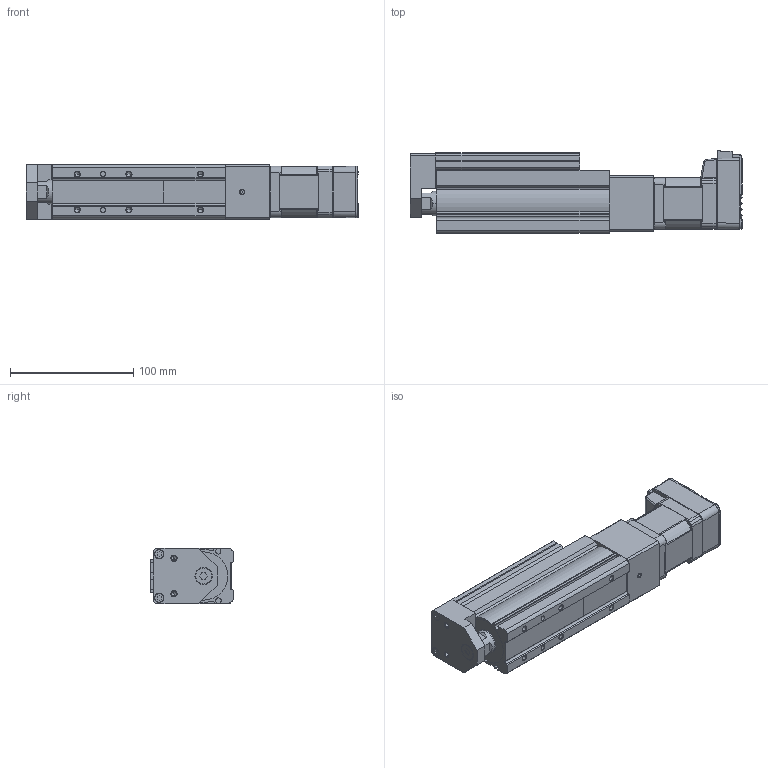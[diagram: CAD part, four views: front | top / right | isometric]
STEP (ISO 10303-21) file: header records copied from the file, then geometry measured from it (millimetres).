
FILE_DESCRIPTION (( 'STEP AP214' ), '1' );
FILE_NAME ('LESYH3(+)-16DNM1□-50-17L.STEP', '2025-05-30T01:49:04', ( '' ), ( '' ), 'SwSTEP 2.0', 'SolidWorks 2019', '' );
FILE_SCHEMA (( 'AUTOMOTIVE_DESIGN' ));
Length unit declared in the file: millimetre
Products named in the file (9): LESYH3(+)-16仏NM1仩-50_TABLE; CM3(+)-17L50A; LESYH3(+)-16仏NM1仩-50_BODY; LESYH3(+)-16DNM1□-50-17L; LESYH3(+)-16DNM1□_MOTOR Flange
Assembly tree (4 placements, depth 2):
  LESYH3(+)-16仏NM1仩-50_TABLE
  CM3(+)-17L50A
  LESYH3(+)-16仏NM1仩-50_BODY
  LESYH3(+)-16DNM1□-50-17L
    LESYH3(+)-16仏NM1仩-50_BODY
    LESYH3(+)-16仏NM1仩-50_TABLE
    LESYH3(+)-16DNM1□_MOTOR Flange
    CM3(+)-17L50A
  LESYH3(+)-16DNM1□_MOTOR Flange
Bounding box: 269.3 x 66.75 x 45 mm (x, y, z)
Volume: 568137.7 mm3; surface area: 106482.1 mm2
Topology: 4 solids, 4 shells, 1027 faces, 2593 edges, 1622 vertices
Faces by surface type: plane 532, cylinder 298, cone 118, bspline 29, torus 29, sphere 21
Full cylindrical faces by diameter (mm): 2.5 x4, 3.5 x4, 5 x1, 8 x1, 11 x1, 22 x1, 33 x1
Entity records: 39601 total; most frequent: CARTESIAN_POINT 7301, ORIENTED_EDGE 5072, DIRECTION 4955, EDGE_CURVE 2536, AXIS2_PLACEMENT_3D 1661, LINE 1633, VECTOR 1633, VERTEX_POINT 1618
